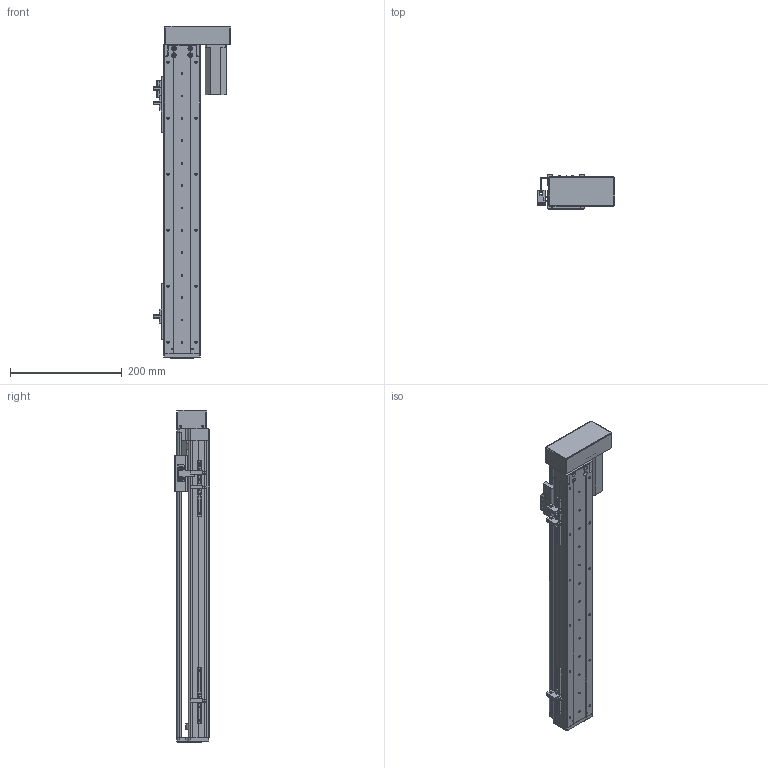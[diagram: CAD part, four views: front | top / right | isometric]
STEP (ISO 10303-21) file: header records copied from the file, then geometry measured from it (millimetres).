
FILE_DESCRIPTION (( 'STEP AP203' ), '1' );
FILE_NAME ('RY60-L1210-300-RK.SLDASM_400.step', '2021-02-20T06:52:34', ( '盈信电脑' ), ( '东莞市道滘镇水果街19号' ), 'SwSTEP 2.0', 'SolidWorks 2012', '' );
FILE_SCHEMA (( 'CONFIG_CONTROL_DESIGN' ));
Length unit declared in the file: millimetre
Products named in the file (13): RY60-L1210-300-RK.SLDASM_400; 覜茼ん672; RY60酘衵殏萇儂欶; 672嫖萇羲壽假蚾釱; 侂狟100W; RY80俋离覜茼え; RY60左右折电机安装板; 滅袉蝶18-10; RY60转折电机端支撑座; RY60-300倰第菁釱-RK_400; RY60-300倰第裔啣-RK_400; RY60臏賑輸; RY60綴裔啣
Assembly tree (18 placements, depth 2):
  RY60-L1210-300-RK.SLDASM_400
    RY60-300倰第菁釱-RK_400
    RY60臏賑輸
    RY60-300倰第裔啣-RK_400
    RY60綴裔啣
    滅袉蝶18-10  x4
    RY60转折电机端支撑座
    RY60左右折电机安装板
    侂狟100W
    RY60酘衵殏萇儂欶
    RY80俋离覜茼え
    672嫖萇羲壽假蚾釱  x2
    覜茼ん672  x3
Bounding box: 137.9 x 61 x 593 mm (x, y, z)
Volume: 821734.6 mm3; surface area: 411221.6 mm2
Topology: 18 solids, 18 shells, 1428 faces, 3986 edges, 2554 vertices
Faces by surface type: plane 713, cylinder 592, cone 106, bspline 17
Entity records: 42493 total; most frequent: CARTESIAN_POINT 10021, ORIENTED_EDGE 6544, DIRECTION 6352, EDGE_CURVE 3272, AXIS2_PLACEMENT_3D 2175, VERTEX_POINT 2134, VECTOR 2002, LINE 2002
